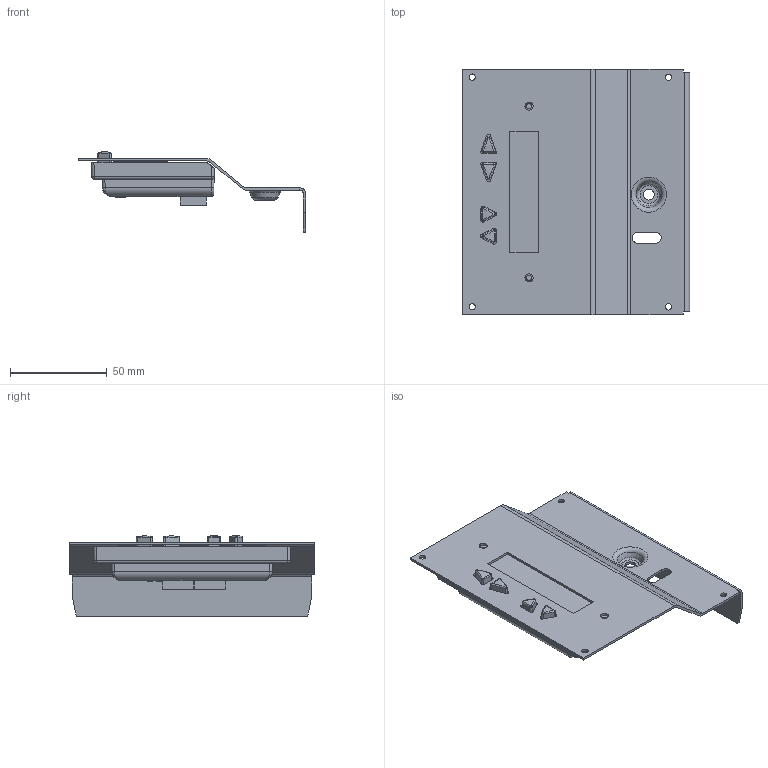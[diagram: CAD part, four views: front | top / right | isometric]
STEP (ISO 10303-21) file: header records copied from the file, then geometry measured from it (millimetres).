
FILE_DESCRIPTION(/* description */ ('Unknown'),/* implementation_level */ '2;1');
FILE_NAME(/* name */ 'TSM_public',/* time_stamp */ '2018-03-13T14:26:51-04:00',/* author */ ('Unknown'),/* organization */ ('Unknown'),/* preprocessor_version */ 'ST-DEVELOPER v16.7',/* originating_system */ 'DEX',/* authorisation */ $);
FILE_SCHEMA (('CONFIG_CONTROL_DESIGN'));
Length unit declared in the file: millimetre
Products named in the file (6): TSM_simple; TS-meter_cover; GS-meter_simple; GS-meter board; GS-buttons and gasket_simple; GS-Meter protector_simple
Assembly tree (5 placements, depth 3):
  TSM_simple
    TS-meter_cover
    GS-meter_simple
      GS-meter board
      GS-buttons and gasket_simple
    GS-Meter protector_simple
Bounding box: 117.6 x 127 x 41.5 mm (x, y, z)
Volume: 130001.5 mm3; surface area: 75913.4 mm2
Topology: 4 solids, 4 shells, 297 faces, 781 edges, 497 vertices
Faces by surface type: plane 142, cylinder 103, bspline 24, cone 18, torus 6, sphere 4
Full cylindrical faces by diameter (mm): 1.27 x16, 2.54 x3, 3.048 x2, 3.302 x4, 4.216 x2, 5.08 x4, 5.588 x1
Entity records: 9420 total; most frequent: CARTESIAN_POINT 2145, DIRECTION 1490, ORIENTED_EDGE 1404, EDGE_CURVE 702, AXIS2_PLACEMENT_3D 537, VERTEX_POINT 466, EDGE_LOOP 428, FACE_BOUND 428
